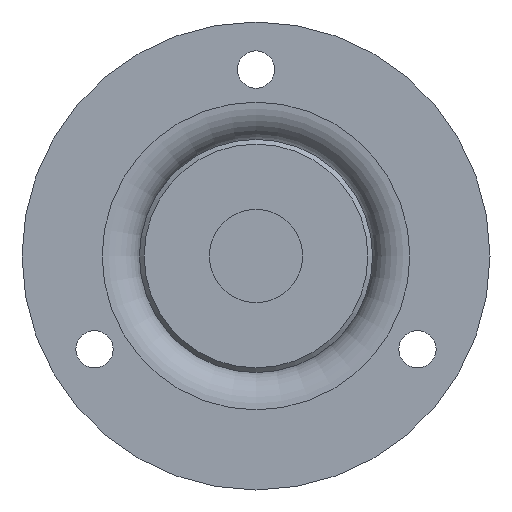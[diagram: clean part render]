
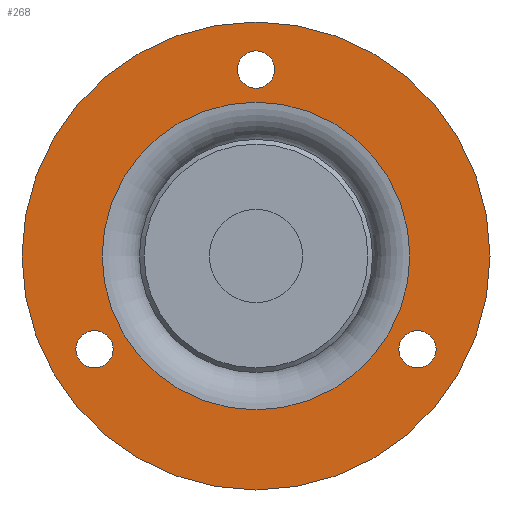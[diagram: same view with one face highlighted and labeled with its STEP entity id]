
A CAD part, front view. The second image highlights one B-rep face of the part: STEP entity #268.
In plain terms, the highlighted planar face has unit normal (0, -1, 0).
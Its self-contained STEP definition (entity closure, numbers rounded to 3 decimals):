
#24=PLANE('',#310);
#51=FACE_BOUND('',#111,.T.);
#52=FACE_BOUND('',#112,.T.);
#53=FACE_BOUND('',#113,.T.);
#54=FACE_BOUND('',#114,.T.);
#72=FACE_OUTER_BOUND('',#110,.T.);
#110=EDGE_LOOP('',(#220));
#111=EDGE_LOOP('',(#221));
#112=EDGE_LOOP('',(#222));
#113=EDGE_LOOP('',(#223));
#114=EDGE_LOOP('',(#224));
#125=CIRCLE('',#283,2.);
#127=CIRCLE('',#286,2.);
#129=CIRCLE('',#289,2.);
#140=CIRCLE('',#309,25.1);
#141=CIRCLE('',#311,16.5);
#147=VERTEX_POINT('',#416);
#149=VERTEX_POINT('',#421);
#151=VERTEX_POINT('',#426);
#162=VERTEX_POINT('',#457);
#163=VERTEX_POINT('',#460);
#169=EDGE_CURVE('',#147,#147,#125,.T.);
#171=EDGE_CURVE('',#149,#149,#127,.T.);
#173=EDGE_CURVE('',#151,#151,#129,.T.);
#184=EDGE_CURVE('',#162,#162,#140,.T.);
#185=EDGE_CURVE('',#163,#163,#141,.T.);
#220=ORIENTED_EDGE('',*,*,#184,.T.);
#221=ORIENTED_EDGE('',*,*,#169,.T.);
#222=ORIENTED_EDGE('',*,*,#171,.T.);
#223=ORIENTED_EDGE('',*,*,#173,.T.);
#224=ORIENTED_EDGE('',*,*,#185,.F.);
#268=ADVANCED_FACE('',(#72,#51,#52,#53,#54),#24,.T.);
#283=AXIS2_PLACEMENT_3D('',#417,#335,#336);
#286=AXIS2_PLACEMENT_3D('',#422,#341,#342);
#289=AXIS2_PLACEMENT_3D('',#427,#347,#348);
#309=AXIS2_PLACEMENT_3D('',#458,#387,#388);
#310=AXIS2_PLACEMENT_3D('',#459,#389,#390);
#311=AXIS2_PLACEMENT_3D('',#461,#391,#392);
#335=DIRECTION('center_axis',(0.,1.,0.));
#336=DIRECTION('ref_axis',(1.,0.,0.));
#341=DIRECTION('center_axis',(0.,1.,0.));
#342=DIRECTION('ref_axis',(1.,0.,0.));
#347=DIRECTION('center_axis',(0.,1.,0.));
#348=DIRECTION('ref_axis',(1.,0.,0.));
#387=DIRECTION('center_axis',(0.,-1.,0.));
#388=DIRECTION('ref_axis',(1.,0.,0.));
#389=DIRECTION('center_axis',(0.,-1.,0.));
#390=DIRECTION('ref_axis',(0.,0.,-1.));
#391=DIRECTION('center_axis',(0.,-1.,0.));
#392=DIRECTION('ref_axis',(1.,0.,0.));
#416=CARTESIAN_POINT('',(15.321,0.,-10.));
#417=CARTESIAN_POINT('Origin',(17.321,0.,-10.));
#421=CARTESIAN_POINT('',(-2.,0.,20.));
#422=CARTESIAN_POINT('Origin',(0.,0.,20.));
#426=CARTESIAN_POINT('',(-19.321,0.,-10.));
#427=CARTESIAN_POINT('Origin',(-17.321,0.,-10.));
#457=CARTESIAN_POINT('',(25.1,0.,0.));
#458=CARTESIAN_POINT('Origin',(0.,0.,
0.));
#459=CARTESIAN_POINT('Origin',(16.5,0.,0.));
#460=CARTESIAN_POINT('',(16.5,0.,0.));
#461=CARTESIAN_POINT('Origin',(0.,0.,
0.));
